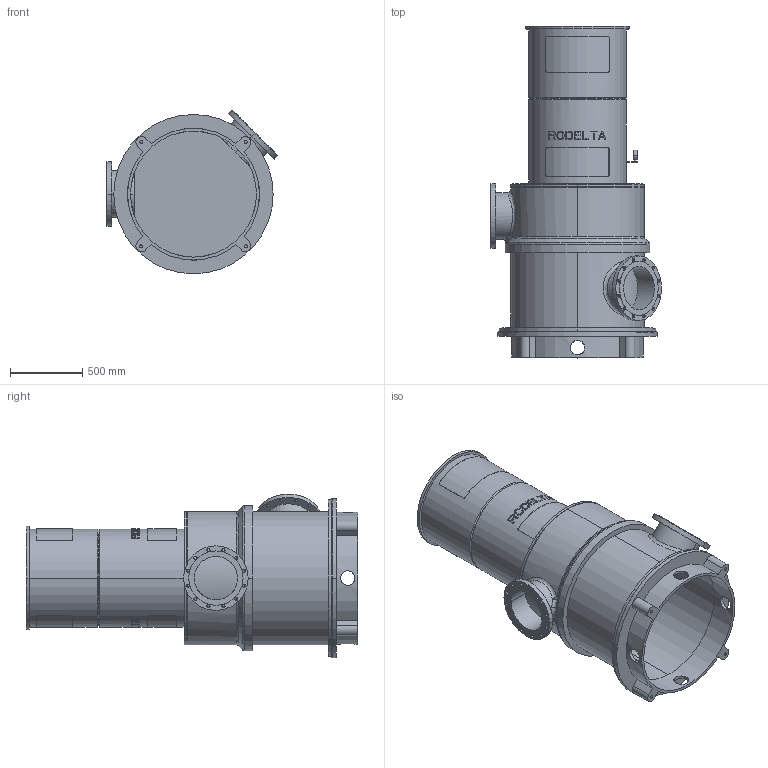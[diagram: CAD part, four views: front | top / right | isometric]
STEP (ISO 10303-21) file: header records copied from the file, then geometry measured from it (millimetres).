
FILE_DESCRIPTION((''),'2;1');
FILE_NAME('LS12_1TR_0GR_UPTO_90KW','2023-08-25T',('Lyritlocal'),(''),'PRO/ENGINEER BY PARAMETRIC TECHNOLOGY CORPORATION, 2016360','PRO/ENGINEER BY PARAMETRIC TECHNOLOGY CORPORATION, 2016360','');
FILE_SCHEMA(('CONFIG_CONTROL_DESIGN'));
Length unit declared in the file: millimetre
Products named in the file (1): LS12_1TR_0GR_UPTO_90KW
Bounding box: 1179.47 x 2290 x 1129.47 mm (x, y, z)
Volume: 119085570.4 mm3; surface area: 15391268.7 mm2
Topology: 3 solids, 7 shells, 559 faces, 1467 edges, 971 vertices
Faces by surface type: plane 335, cylinder 198, cone 13, bspline 10, torus 3
Entity records: 18804 total; most frequent: CARTESIAN_POINT 5206, ORIENTED_EDGE 2918, DIRECTION 2627, EDGE_CURVE 1467, AXIS2_PLACEMENT_3D 998, VERTEX_POINT 971, EDGE_LOOP 676, VECTOR 631
